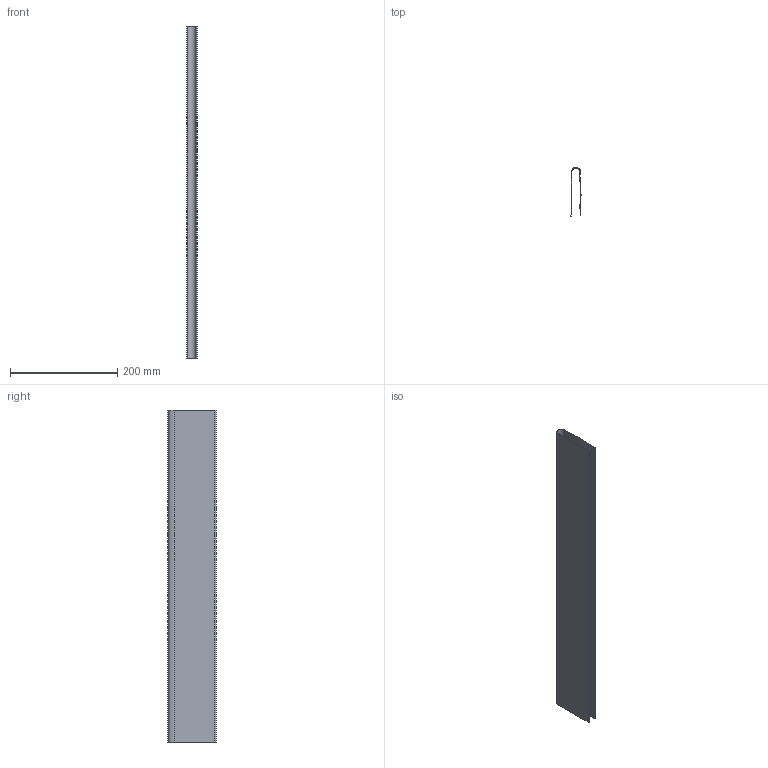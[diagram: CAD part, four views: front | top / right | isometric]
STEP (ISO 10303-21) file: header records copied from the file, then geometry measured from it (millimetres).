
FILE_DESCRIPTION (( 'STEP AP214' ), '1' );
FILE_NAME ('_Duowing NL650.step', '2010-07-14T13:30:50', ( 'grass' ), ( '' ), 'SwSTEP 2.0', 'SolidWorks 2010', '' );
FILE_SCHEMA (( 'AUTOMOTIVE_DESIGN' ));
Length unit declared in the file: millimetre
Products named in the file (1): _Duowing NL650
Bounding box: 18.64 x 90.48 x 618 mm (x, y, z)
Volume: 87499 mm3; surface area: 234540.9 mm2
Topology: 1 solids, 1 shells, 54 faces, 108 edges, 56 vertices
Faces by surface type: plane 36, cylinder 18
Entity records: 1378 total; most frequent: DIRECTION 254, CARTESIAN_POINT 219, ORIENTED_EDGE 216, EDGE_CURVE 108, AXIS2_PLACEMENT_3D 91, VECTOR 72, LINE 72, VERTEX_POINT 56
